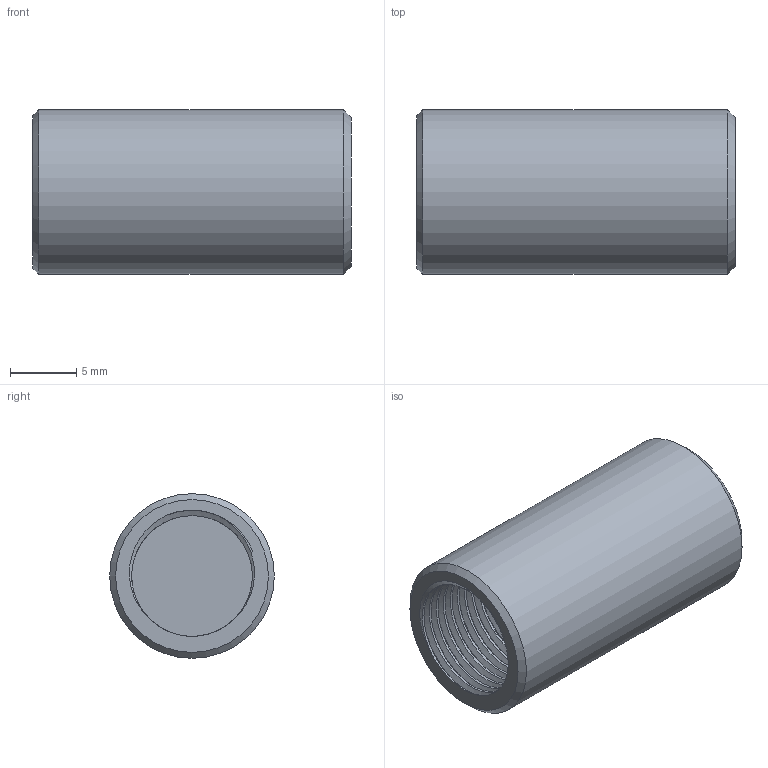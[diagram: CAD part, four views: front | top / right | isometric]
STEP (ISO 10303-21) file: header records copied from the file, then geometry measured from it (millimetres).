
FILE_DESCRIPTION(('Open CASCADE Model'),'2;1');
FILE_NAME('Open CASCADE Shape Model','2026-11-25T12:49:27',('Author'),( 'Open CASCADE'),'Open CASCADE STEP processor 8.0','Open CASCADE 8.0' ,'Unknown');
FILE_SCHEMA(('AP242_MANAGED_MODEL_BASED_3D_ENGINEERING_MIM_LF {1 0 10303 442 1 1 4 }' ));
Length unit declared in the file: millimetre
Products named in the file (1): Threaded cap
Bounding box: 24 x 12.4 x 12.4 mm (x, y, z)
Volume: 1187.9 mm3; surface area: 2010.7 mm2
Topology: 1 solids, 1 shells, 23 faces, 55 edges, 36 vertices
Faces by surface type: cylinder 14, plane 4, bspline 3, cone 2
Full cylindrical faces by diameter (mm): 9.088 x10, 10 x1, 12.4 x1
Entity records: 6785 total; most frequent: CARTESIAN_POINT 5808, DIRECTION 123, ORIENTED_EDGE 110, PCURVE 110, DEFINITIONAL_REPRESENTATION 110, B_SPLINE_CURVE_WITH_KNOTS 92, LINE 59, VECTOR 59
